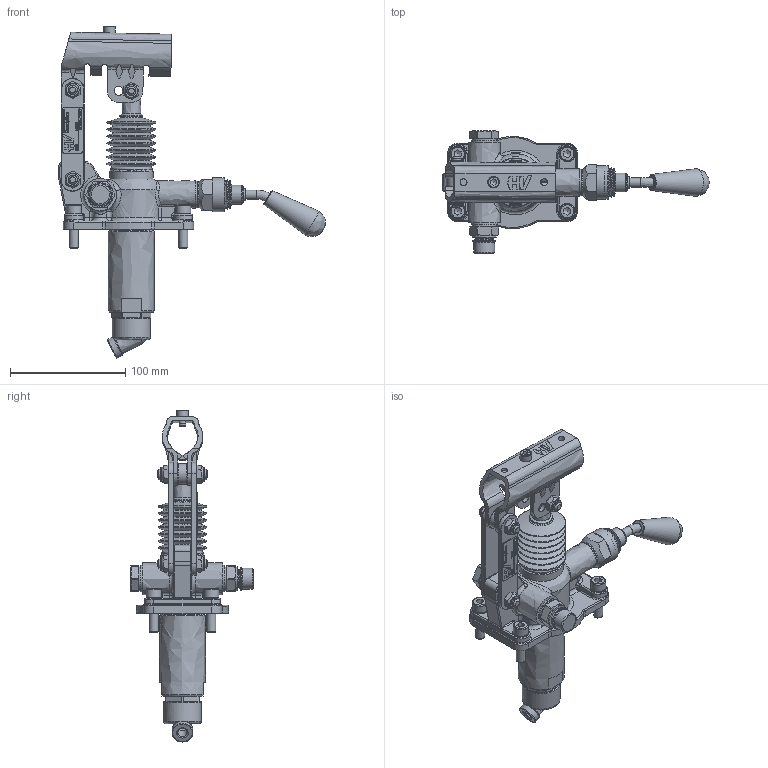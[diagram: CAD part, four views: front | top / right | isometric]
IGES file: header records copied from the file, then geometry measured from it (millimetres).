
Global section: file name: No Iges File Name specified; native system: Autodesk Inventor 2013; preprocessor: AutoDesk Inventor Iges Exporter R2013; author: christian.scardovi; date: 20240228.142400; units: millimetre
Bounding box: 231.27 x 106.5 x 288.31 mm (x, y, z)
Volume: 444725.2 mm3; surface area: 136555.2 mm2
Topology: 3 solids, 3 shells, 1478 faces, 3693 edges, 2327 vertices
Faces by surface type: bspline 1478
